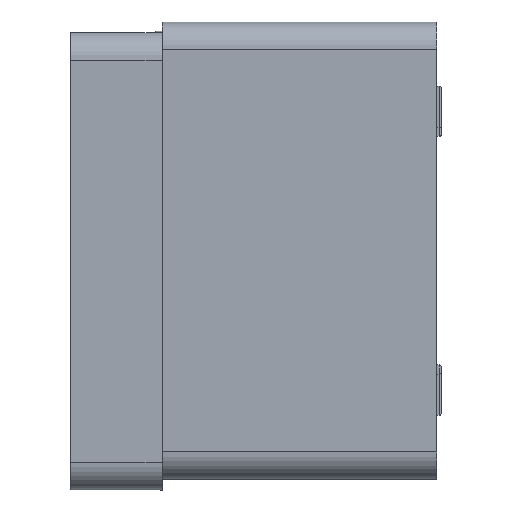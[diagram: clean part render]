
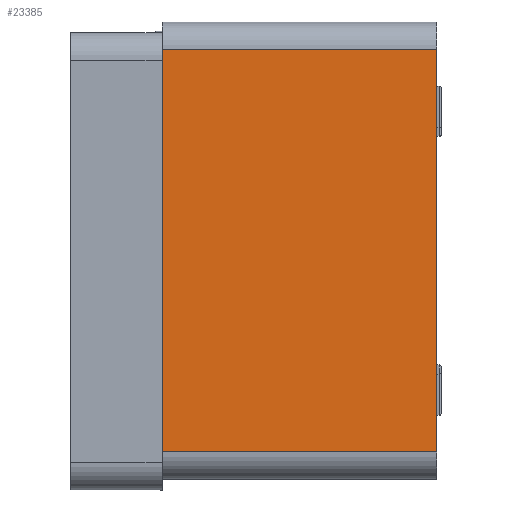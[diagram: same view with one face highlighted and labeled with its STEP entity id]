
A CAD part, left-side view. The second image highlights one B-rep face of the part: STEP entity #23385.
In plain terms, the highlighted planar face has unit normal (-1, 0, 0).
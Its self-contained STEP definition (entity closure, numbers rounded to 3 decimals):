
#931 = ORIENTED_EDGE ( 'NONE', *, *, #24077, .F. ) ;
#995 = VERTEX_POINT ( 'NONE', #12264 ) ;
#1983 = VERTEX_POINT ( 'NONE', #3718 ) ;
#2409 = CARTESIAN_POINT ( 'NONE',  ( -50., 60., -50. ) ) ;
#3718 = CARTESIAN_POINT ( 'NONE',  ( -50., 60., -44. ) ) ;
#5679 = PLANE ( 'NONE',  #22871 ) ;
#6134 = DIRECTION ( 'NONE',  ( 0., -1., 0. ) ) ;
#6235 = DIRECTION ( 'NONE',  ( 0., 0., 1. ) ) ;
#7231 = CARTESIAN_POINT ( 'NONE',  ( -50., 0., -50. ) ) ;
#7279 = CARTESIAN_POINT ( 'NONE',  ( -50., 60., 44. ) ) ;
#7802 = DIRECTION ( 'NONE',  ( 1., 0., 0. ) ) ;
#8516 = VECTOR ( 'NONE', #6235, 1000. ) ;
#9078 = DIRECTION ( 'NONE',  ( 0., 0., 1. ) ) ;
#9399 = DIRECTION ( 'NONE',  ( 0., 1., 0. ) ) ;
#9968 = ORIENTED_EDGE ( 'NONE', *, *, #19306, .T. ) ;
#10405 = VERTEX_POINT ( 'NONE', #25087 ) ;
#10969 = VECTOR ( 'NONE', #9078, 1000. ) ;
#11249 = DIRECTION ( 'NONE',  ( 0., 0., -1. ) ) ;
#12132 = CARTESIAN_POINT ( 'NONE',  ( -50., 60., 44. ) ) ;
#12264 = CARTESIAN_POINT ( 'NONE',  ( -50., 0., -44. ) ) ;
#16367 = VECTOR ( 'NONE', #6134, 1000. ) ;
#17057 = EDGE_CURVE ( 'NONE', #1983, #995, #18191, .T. ) ;
#18191 = LINE ( 'NONE', #24284, #16367 ) ;
#18544 = LINE ( 'NONE', #2409, #8516 ) ;
#19107 = VECTOR ( 'NONE', #9399, 1000. ) ;
#19306 = EDGE_CURVE ( 'NONE', #995, #10405, #22878, .T. ) ;
#21591 = FACE_OUTER_BOUND ( 'NONE', #23683, .T. ) ;
#22871 = AXIS2_PLACEMENT_3D ( 'NONE', #25423, #7802, #11249 ) ;
#22878 = LINE ( 'NONE', #7231, #10969 ) ;
#23354 = ORIENTED_EDGE ( 'NONE', *, *, #24322, .T. ) ;
#23385 = ADVANCED_FACE ( 'NONE', ( #21591 ), #5679, .F. ) ;
#23563 = ORIENTED_EDGE ( 'NONE', *, *, #17057, .T. ) ;
#23567 = LINE ( 'NONE', #7279, #19107 ) ;
#23683 = EDGE_LOOP ( 'NONE', ( #9968, #23354, #931, #23563 ) ) ;
#24077 = EDGE_CURVE ( 'NONE', #1983, #25118, #18544, .T. ) ;
#24284 = CARTESIAN_POINT ( 'NONE',  ( -50., 60., -44. ) ) ;
#24322 = EDGE_CURVE ( 'NONE', #10405, #25118, #23567, .T. ) ;
#25087 = CARTESIAN_POINT ( 'NONE',  ( -50., 0., 44. ) ) ;
#25118 = VERTEX_POINT ( 'NONE', #12132 ) ;
#25423 = CARTESIAN_POINT ( 'NONE',  ( -50., 60., -50. ) ) ;
